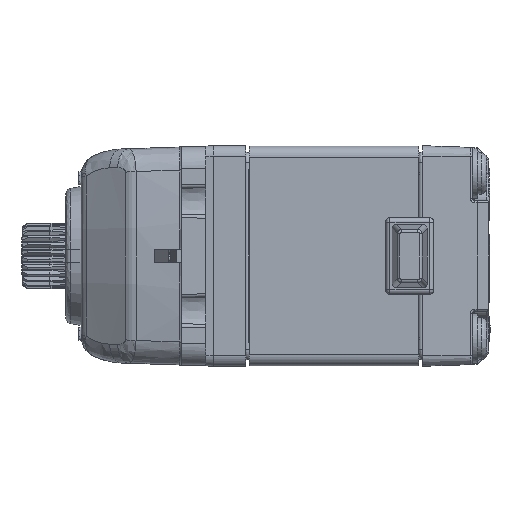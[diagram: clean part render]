
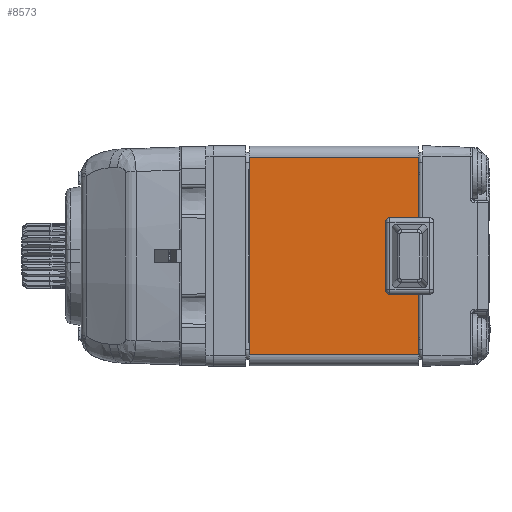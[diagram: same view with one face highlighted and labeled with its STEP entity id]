
A CAD part, left-side view. The second image highlights one B-rep face of the part: STEP entity #8573.
In plain terms, the highlighted planar face has unit normal (-1, 0, 0).
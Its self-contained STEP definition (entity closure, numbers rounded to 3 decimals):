
#444 = DIRECTION ( 'NONE',  ( 0., 0., 1. ) ) ;
#735 = LINE ( 'NONE', #50878, #25020 ) ;
#1253 = EDGE_CURVE ( 'NONE', #70245, #21424, #72512, .T. ) ;
#1858 = LINE ( 'NONE', #50794, #13003 ) ;
#3601 = DIRECTION ( 'NONE',  ( 0., 1., 0. ) ) ;
#3837 = ORIENTED_EDGE ( 'NONE', *, *, #15678, .T. ) ;
#6962 = CARTESIAN_POINT ( 'NONE',  ( -10.3, -16.85, -3.1 ) ) ;
#7100 = DIRECTION ( 'NONE',  ( 0., 0., 1. ) ) ;
#8573 = ADVANCED_FACE ( 'NONE', ( #25973 ), #40867, .T. ) ;
#10599 = ORIENTED_EDGE ( 'NONE', *, *, #71552, .F. ) ;
#11260 = CARTESIAN_POINT ( 'NONE',  ( -10.3, -4., -9.05 ) ) ;
#12975 = LINE ( 'NONE', #44444, #28836 ) ;
#13003 = VECTOR ( 'NONE', #70721, 1000. ) ;
#14396 = CARTESIAN_POINT ( 'NONE',  ( -10.3, -16.85, 3.1 ) ) ;
#14626 = CARTESIAN_POINT ( 'NONE',  ( -10.3, -19.5, 9.05 ) ) ;
#15246 = LINE ( 'NONE', #35146, #67436 ) ;
#15678 = EDGE_CURVE ( 'NONE', #33675, #56972, #1858, .T. ) ;
#17268 = EDGE_CURVE ( 'NONE', #70245, #78906, #12975, .T. ) ;
#18282 = ORIENTED_EDGE ( 'NONE', *, *, #71276, .T. ) ;
#19090 = AXIS2_PLACEMENT_3D ( 'NONE', #47445, #67382, #22641 ) ;
#20460 = VERTEX_POINT ( 'NONE', #62403 ) ;
#21424 = VERTEX_POINT ( 'NONE', #34691 ) ;
#21914 = CIRCLE ( 'NONE', #35143, 0.4 ) ;
#22641 = DIRECTION ( 'NONE',  ( 0., 1., 0. ) ) ;
#24182 = EDGE_CURVE ( 'NONE', #71895, #57739, #76761, .T. ) ;
#24476 = VERTEX_POINT ( 'NONE', #25974 ) ;
#25020 = VECTOR ( 'NONE', #26872, 1000. ) ;
#25973 = FACE_OUTER_BOUND ( 'NONE', #33228, .T. ) ;
#25974 = CARTESIAN_POINT ( 'NONE',  ( -10.3, -16.45, -3.1 ) ) ;
#26872 = DIRECTION ( 'NONE',  ( 0., -1., 0. ) ) ;
#28836 = VECTOR ( 'NONE', #44047, 1000. ) ;
#33228 = EDGE_LOOP ( 'NONE', ( #63497, #3837, #10599, #18282, #35126, #66114, #64889, #58786, #38744, #65398 ) ) ;
#33591 = LINE ( 'NONE', #45577, #44856 ) ;
#33675 = VERTEX_POINT ( 'NONE', #50993 ) ;
#34691 = CARTESIAN_POINT ( 'NONE',  ( -10.3, -19.5, -9.05 ) ) ;
#35126 = ORIENTED_EDGE ( 'NONE', *, *, #61633, .F. ) ;
#35143 = AXIS2_PLACEMENT_3D ( 'NONE', #14396, #69576, #64976 ) ;
#35146 = CARTESIAN_POINT ( 'NONE',  ( -10.3, -19.5, 9.05 ) ) ;
#37108 = CARTESIAN_POINT ( 'NONE',  ( -10.3, -4., 9.05 ) ) ;
#37794 = LINE ( 'NONE', #69705, #49759 ) ;
#38744 = ORIENTED_EDGE ( 'NONE', *, *, #17268, .F. ) ;
#40867 = PLANE ( 'NONE',  #19090 ) ;
#42728 = CARTESIAN_POINT ( 'NONE',  ( -10.3, -16.85, 3.5 ) ) ;
#42818 = VERTEX_POINT ( 'NONE', #42728 ) ;
#44047 = DIRECTION ( 'NONE',  ( 0., 0., 1. ) ) ;
#44444 = CARTESIAN_POINT ( 'NONE',  ( -10.3, -4., -9.05 ) ) ;
#44657 = DIRECTION ( 'NONE',  ( -1., 0., 0. ) ) ;
#44856 = VECTOR ( 'NONE', #444, 1000. ) ;
#45577 = CARTESIAN_POINT ( 'NONE',  ( -10.3, -16.45, 3.5 ) ) ;
#47445 = CARTESIAN_POINT ( 'NONE',  ( -10.3, -19.5, -9.05 ) ) ;
#49759 = VECTOR ( 'NONE', #69290, 1000. ) ;
#50794 = CARTESIAN_POINT ( 'NONE',  ( -10.3, -16.45, -3.5 ) ) ;
#50878 = CARTESIAN_POINT ( 'NONE',  ( -10.3, -20.85, 3.5 ) ) ;
#50993 = CARTESIAN_POINT ( 'NONE',  ( -10.3, -19.5, -3.5 ) ) ;
#51706 = DIRECTION ( 'NONE',  ( 0., 1., 0. ) ) ;
#56972 = VERTEX_POINT ( 'NONE', #67649 ) ;
#57293 = CARTESIAN_POINT ( 'NONE',  ( -10.3, -19.5, -9.05 ) ) ;
#57739 = VERTEX_POINT ( 'NONE', #14626 ) ;
#58786 = ORIENTED_EDGE ( 'NONE', *, *, #66395, .T. ) ;
#61402 = VECTOR ( 'NONE', #78340, 1000. ) ;
#61633 = EDGE_CURVE ( 'NONE', #42818, #20460, #21914, .T. ) ;
#62403 = CARTESIAN_POINT ( 'NONE',  ( -10.3, -16.45, 3.1 ) ) ;
#63351 = EDGE_CURVE ( 'NONE', #21424, #33675, #37794, .T. ) ;
#63497 = ORIENTED_EDGE ( 'NONE', *, *, #63351, .T. ) ;
#64889 = ORIENTED_EDGE ( 'NONE', *, *, #24182, .T. ) ;
#64976 = DIRECTION ( 'NONE',  ( 0., 1., 0. ) ) ;
#65398 = ORIENTED_EDGE ( 'NONE', *, *, #1253, .T. ) ;
#66114 = ORIENTED_EDGE ( 'NONE', *, *, #71491, .T. ) ;
#66395 = EDGE_CURVE ( 'NONE', #57739, #78906, #15246, .T. ) ;
#67382 = DIRECTION ( 'NONE',  ( -1., 0., 0. ) ) ;
#67436 = VECTOR ( 'NONE', #3601, 1000. ) ;
#67649 = CARTESIAN_POINT ( 'NONE',  ( -10.3, -16.85, -3.5 ) ) ;
#69290 = DIRECTION ( 'NONE',  ( 0., 0., 1. ) ) ;
#69576 = DIRECTION ( 'NONE',  ( -1., 0., 0. ) ) ;
#69705 = CARTESIAN_POINT ( 'NONE',  ( -10.3, -19.5, -9.05 ) ) ;
#70245 = VERTEX_POINT ( 'NONE', #11260 ) ;
#70721 = DIRECTION ( 'NONE',  ( 0., 1., 0. ) ) ;
#70860 = CARTESIAN_POINT ( 'NONE',  ( -10.3, -19.5, -9.05 ) ) ;
#71276 = EDGE_CURVE ( 'NONE', #24476, #20460, #33591, .T. ) ;
#71491 = EDGE_CURVE ( 'NONE', #42818, #71895, #735, .T. ) ;
#71552 = EDGE_CURVE ( 'NONE', #24476, #56972, #75380, .T. ) ;
#71895 = VERTEX_POINT ( 'NONE', #78175 ) ;
#72512 = LINE ( 'NONE', #70860, #61402 ) ;
#72780 = AXIS2_PLACEMENT_3D ( 'NONE', #6962, #44657, #51706 ) ;
#74639 = VECTOR ( 'NONE', #7100, 1000. ) ;
#75380 = CIRCLE ( 'NONE', #72780, 0.4 ) ;
#76761 = LINE ( 'NONE', #57293, #74639 ) ;
#78175 = CARTESIAN_POINT ( 'NONE',  ( -10.3, -19.5, 3.5 ) ) ;
#78340 = DIRECTION ( 'NONE',  ( 0., -1., 0. ) ) ;
#78906 = VERTEX_POINT ( 'NONE', #37108 ) ;
